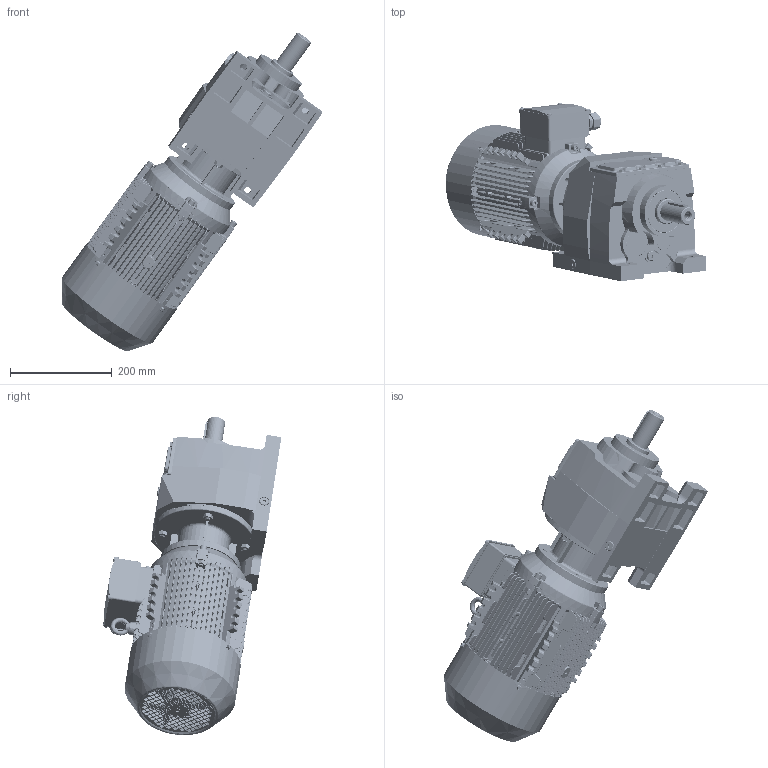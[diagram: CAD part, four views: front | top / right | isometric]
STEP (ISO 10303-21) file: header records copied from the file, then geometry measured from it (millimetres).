
FILE_DESCRIPTION (( 'STEP AP203' ), '1' );
FILE_NAME ('MV_283_0_MX112.STEP', '2018-11-29T09:48:22', ( '' ), ( '' ), 'SwSTEP 2.0', 'SolidWorks 2012', '' );
FILE_SCHEMA (( 'CONFIG_CONTROL_DESIGN' ));
Length unit declared in the file: millimetre
Products named in the file (26): DMX-IE3 112  cable glands_3; MV_283_0_MX112; MX3-112_B14; DMX-IE3 112 Flange; DMX-IE3 112terminal box cover_3; cross recessed pan head screws gb_GB_CROSS_SCREWS_TYPE1 M5X12-12  H type-N_3; hexagon flange head tapping screws gb_GB_SQUARE_AND_HEXAGON_TYPE137 ST4.8X9.5 C-N_3; eyebolts gb_GB_FASTENER_SCREWS_FRS M8-N_3; DMX-IE3 112terminal box base_3; DMX-IE3 112   fan cover_3; plain parallel keys_GB_CONNECTING_PIECE_KEYS_CSK 8X50_3; circlips for shaft--type a large gb_GB_CONNECTING_PIECE_RING_RRA 28_3; spring lock washers--normal type gb_GB_FASTENER_WASHER_SW 8_3; hexagon socket head cap screws gb_GB_FASTENER_SCREWS_HSHCS M8X40-N_3; hexagon nuts grade c gb_GB_FASTENER_NUT_SNC1 M8-N_3; DMX-IE3 112 fan_3; DMX-IE3 112M4  oil seal_3; DMX-IE3 oil seal_3; DMX-IE3 112 shaft_3; DMX-IE3 112 shield_3; deep groove ball bearings gb_Rolling bearings 6306 GB 276-94_3; deep groove ball bearings gb_Rolling bearings 6206 GB 276-94_3; ML106A_Varsayìlan; 33100B14_Varsayìlan; DMX-IE3 112M4 casing_3; M283_Varsayìlan
Assembly tree (54 placements, depth 3):
  MV_283_0_MX112
    M283_Varsayìlan
    33100B14_Varsayìlan
    ML106A_Varsayìlan
    MX3-112_B14
      DMX-IE3 112M4 casing_3
      DMX-IE3 112 shaft_3
      DMX-IE3 112 shield_3
      deep groove ball bearings gb_Rolling bearings 6306 GB 276-94_3
      deep groove ball bearings gb_Rolling bearings 6206 GB 276-94_3
      DMX-IE3 112M4  oil seal_3
      DMX-IE3 oil seal_3
      DMX-IE3 112 fan_3
      circlips for shaft--type a large gb_GB_CONNECTING_PIECE_RING_RRA 28_3
      spring lock washers--normal type gb_GB_FASTENER_WASHER_SW 8_3  x8
      hexagon nuts grade c gb_GB_FASTENER_NUT_SNC1 M8-N_3  x8
      hexagon socket head cap screws gb_GB_FASTENER_SCREWS_HSHCS M8X40-N_3  x8
      DMX-IE3 112   fan cover_3
      plain parallel keys_GB_CONNECTING_PIECE_KEYS_CSK 8X50_3
      DMX-IE3 112terminal box base_3
      DMX-IE3 112terminal box cover_3
      cross recessed pan head screws gb_GB_CROSS_SCREWS_TYPE1 M5X12-12  H type-N_3  x4
      eyebolts gb_GB_FASTENER_SCREWS_FRS M8-N_3
      hexagon flange head tapping screws gb_GB_SQUARE_AND_HEXAGON_TYPE137 ST4.8X9.5 C-N_3  x5
      DMX-IE3 112  cable glands_3  x2
      DMX-IE3 112 Flange
Bounding box: 511.96 x 351.77 x 626.47 mm (x, y, z)
Volume: 9486381.3 mm3; surface area: 1754147.3 mm2
Topology: 53 solids, 59 shells, 7159 faces, 18493 edges, 11318 vertices
Faces by surface type: plane 2552, cylinder 1913, bspline 1699, cone 774, torus 111, sphere 110
Entity records: 275870 total; most frequent: CARTESIAN_POINT 124930, ORIENTED_EDGE 33536, DIRECTION 27326, EDGE_CURVE 16771, VERTEX_POINT 10365, AXIS2_PLACEMENT_3D 9918, VECTOR 7490, LINE 7490
